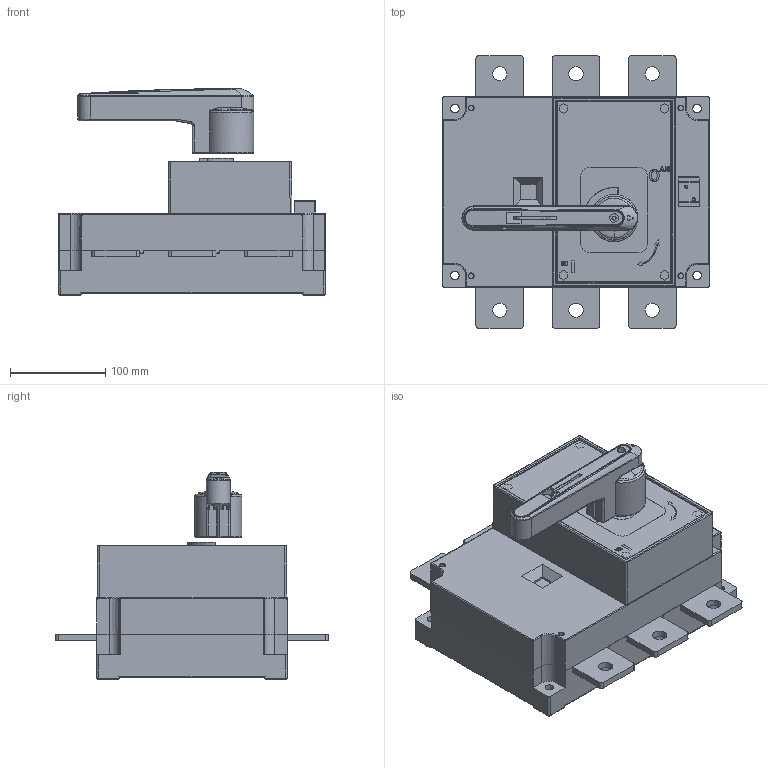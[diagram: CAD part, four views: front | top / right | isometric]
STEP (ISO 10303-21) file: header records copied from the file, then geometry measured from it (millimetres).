
FILE_DESCRIPTION((''),'2;1');
FILE_NAME('GL-800X-3','2024-01-24T10:44:46',('panxiangxiang'),(''),'CREO PARAMETRIC BY PTC INC, 2020354','CREO PARAMETRIC BY PTC INC, 2020354','');
FILE_SCHEMA(('CONFIG_CONTROL_DESIGN'));
Products named in the file (1): GL-800X-3
Bounding box: 280 x 286 x 217.19 mm (x, y, z)
Volume: 1779213.5 mm3; surface area: 803235.6 mm2
Topology: 4 solids, 5 shells, 2690 faces, 7379 edges, 4798 vertices
Faces by surface type: plane 1659, cylinder 522, extrusion 158, bspline 133, cone 124, revolution 72, torus 18, sphere 4
Entity records: 107398 total; most frequent: CARTESIAN_POINT 40736, ORIENTED_EDGE 14718, DIRECTION 12189, EDGE_CURVE 7359, VECTOR 5241, LINE 5083, VERTEX_POINT 4798, AXIS2_PLACEMENT_3D 3438
